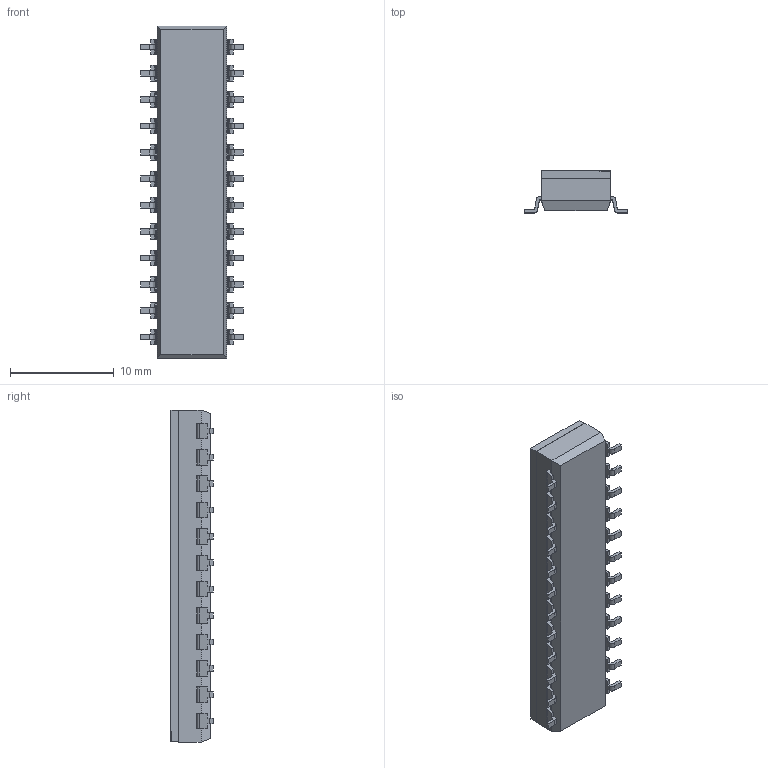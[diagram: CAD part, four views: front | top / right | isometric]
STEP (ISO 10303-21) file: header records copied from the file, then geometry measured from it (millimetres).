
FILE_DESCRIPTION (( 'STEP AP203' ), '1' );
FILE_NAME ('219-12LPST.STEP', '2019-05-24T06:48:05', ( '' ), ( '' ), 'SwSTEP 2.0', 'SolidWorks 2019', '' );
FILE_SCHEMA (( 'CONFIG_CONTROL_DESIGN' ));
Length unit declared in the file: millimetre
Products named in the file (4): 219-56-001; 219-12LPST; 219-02-012; 219-40-012
Assembly tree (14 placements, depth 2):
  219-12LPST
    219-02-012
    219-40-012
    219-56-001  x12
Bounding box: 9.91 x 4.05 x 31.96 mm (x, y, z)
Volume: 652.4 mm3; surface area: 1902.6 mm2
Topology: 14 solids, 14 shells, 1475 faces, 3977 edges, 2570 vertices
Faces by surface type: plane 912, bspline 275, cylinder 240, sphere 48
Entity records: 49817 total; most frequent: CARTESIAN_POINT 21713, ORIENTED_EDGE 6274, DIRECTION 4555, EDGE_CURVE 3137, LINE 2371, VECTOR 2371, VERTEX_POINT 2086, EDGE_LOOP 1235
